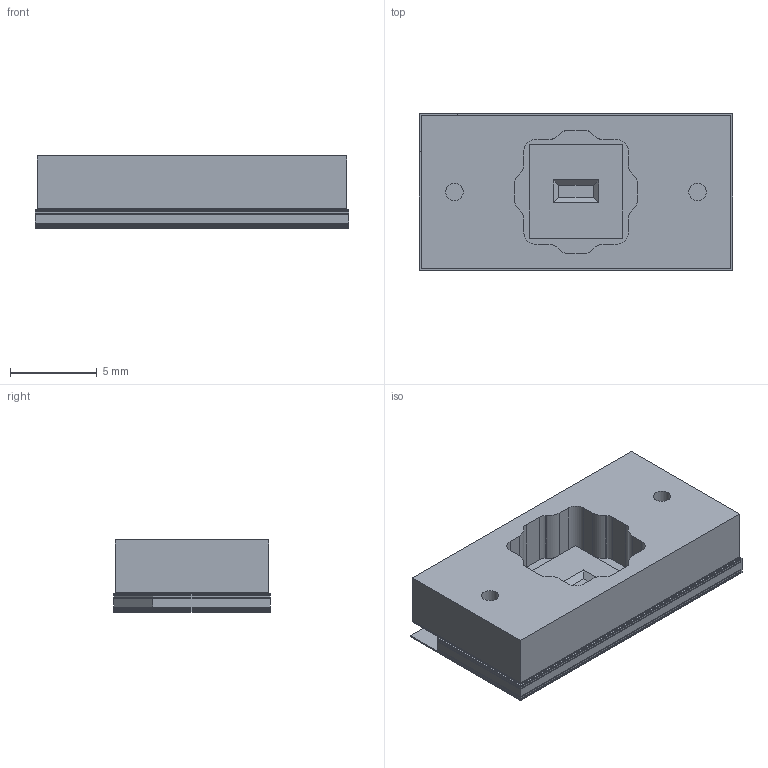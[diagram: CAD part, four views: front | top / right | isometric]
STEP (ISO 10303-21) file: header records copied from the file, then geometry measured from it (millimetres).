
FILE_DESCRIPTION(/* description */ (''),/* implementation_level */ '2;1');
FILE_NAME(/* name */ 'Full hToC Assembly v4.step',/* time_stamp */ '2025-08-21T13:30:30-04:00',/* author */ (''),/* organization */ (''),/* preprocessor_version */ 'ST-DEVELOPER v20.1',/* originating_system */ 'Autodesk Translation Framework v14.10.0.0',/* authorisation */ '');
FILE_SCHEMA (('AUTOMOTIVE_DESIGN { 1 0 10303 214 3 1 1 }'));
Length unit declared in the file: millimetre
Products named in the file (21): Full hToC Assembly; root; hToc Bottom.SLDASM; hToc Bottom L10-1; hToc Bottom L8-1; hToc Bottom L9-1; hToc Bottom L7-1; hToc Bottom L6-1; hToc Bottom L5-1; hToc Bottom L4-1; hToc Bottom L3-1; hToc Bottom L2-1; hToc Bottom L1-1; hToc Bottom L0-2; v10_component1; L3 - PET (1); L1 - Acrylic; L2 - Silicone PSA; 1 Slot Membrane; 1-Slot Membrane; Pore Layer
Assembly tree (20 placements, depth 4):
  Full hToC Assembly
    root
      hToc Bottom.SLDASM
        hToc Bottom L10-1
        hToc Bottom L8-1
        hToc Bottom L9-1
        hToc Bottom L7-1
        hToc Bottom L6-1
        hToc Bottom L5-1
        hToc Bottom L4-1
        hToc Bottom L3-1
        hToc Bottom L2-1
        hToc Bottom L1-1
        hToc Bottom L0-2
    v10_component1
      L3 - PET (1)
      L1 - Acrylic
      L2 - Silicone PSA
    1 Slot Membrane
      1-Slot Membrane
      Pore Layer
Bounding box: 18 x 9 x 4.14 mm (x, y, z)
Volume: 475.1 mm3; surface area: 3603 mm2
Topology: 16 solids, 16 shells, 207 faces, 525 edges, 350 vertices
Faces by surface type: plane 163, cylinder 44
Full cylindrical faces by diameter (mm): 1 x2, 1.25 x4
Entity records: 6891 total; most frequent: CARTESIAN_POINT 1123, DIRECTION 1109, ORIENTED_EDGE 1050, EDGE_CURVE 525, LINE 437, VECTOR 437, VERTEX_POINT 350, AXIS2_PLACEMENT_3D 336
